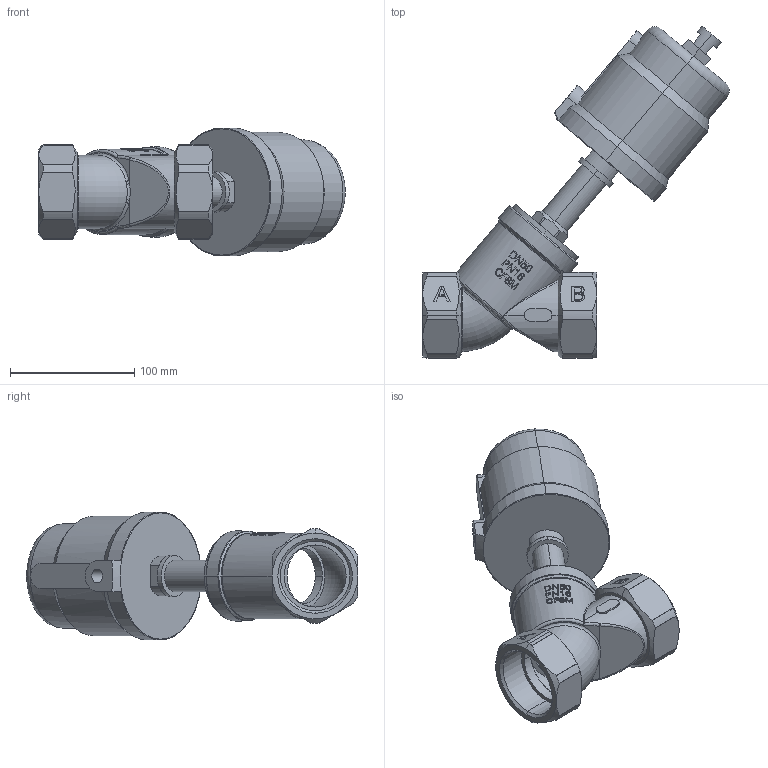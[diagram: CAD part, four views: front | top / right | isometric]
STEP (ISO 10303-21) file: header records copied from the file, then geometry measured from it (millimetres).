
FILE_DESCRIPTION (( 'STEP AP203' ), '1' );
FILE_NAME ('蚾饜极101S5090.STEP', '2024-07-22T08:53:02', ( 'Windows 蚚誧' ), ( 'Microsoft' ), 'SwSTEP 2.0', 'SolidWorks 2018', '' );
FILE_SCHEMA (( 'CONFIG_CONTROL_DESIGN' ));
Length unit declared in the file: millimetre
Products named in the file (5): SS 90戚; 弝敦; DN50 蟀諉翐; DN50 概极; 蚾饜极101S5090
Assembly tree (4 placements, depth 2):
  蚾饜极101S5090
    DN50 概极
    DN50 蟀諉翐
    SS 90戚
    弝敦
Bounding box: 246.9 x 267.33 x 103 mm (x, y, z)
Volume: 1070102.5 mm3; surface area: 146140.9 mm2
Topology: 4 solids, 4 shells, 470 faces, 1219 edges, 793 vertices
Faces by surface type: bspline 184, cylinder 128, plane 106, cone 38, torus 12, sphere 2
Entity records: 35629 total; most frequent: CARTESIAN_POINT 25350, ORIENTED_EDGE 2434, DIRECTION 1351, EDGE_CURVE 1217, VERTEX_POINT 793, B_SPLINE_CURVE_WITH_KNOTS 665, AXIS2_PLACEMENT_3D 529, EDGE_LOOP 518
